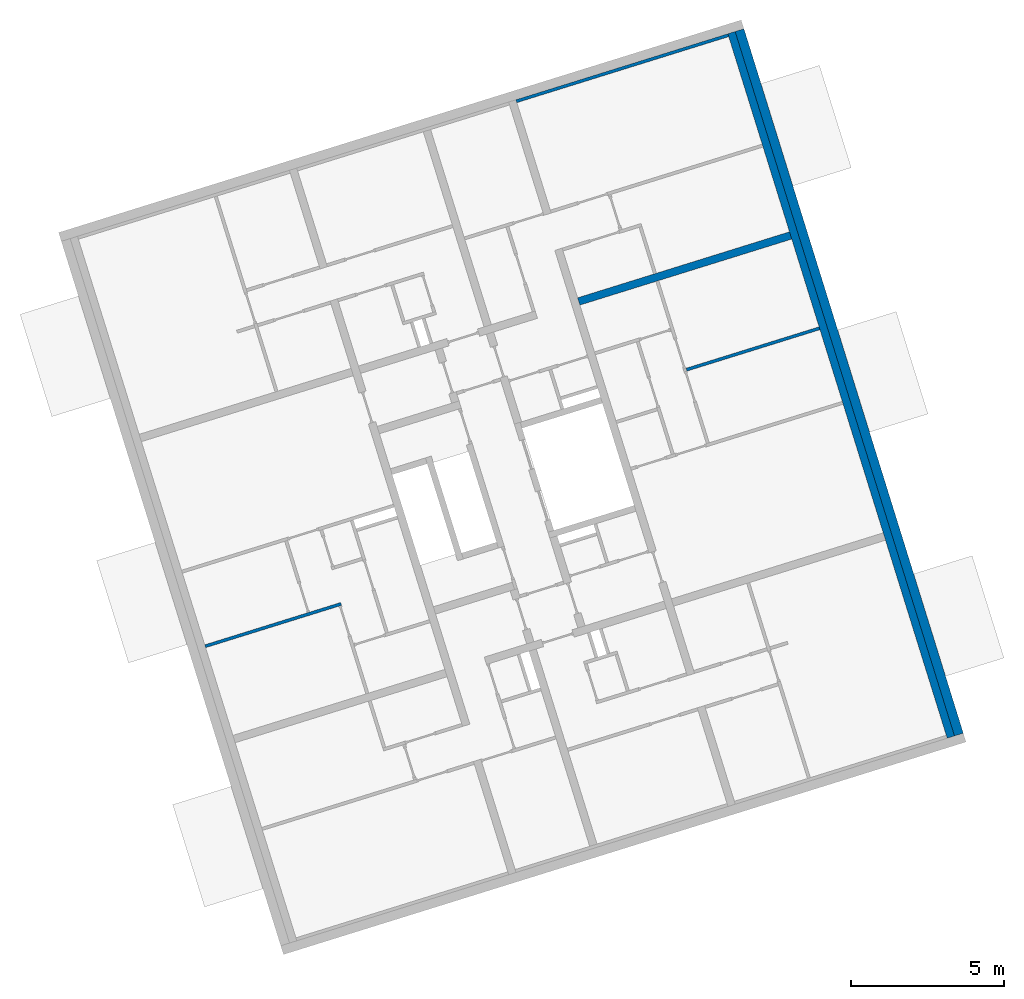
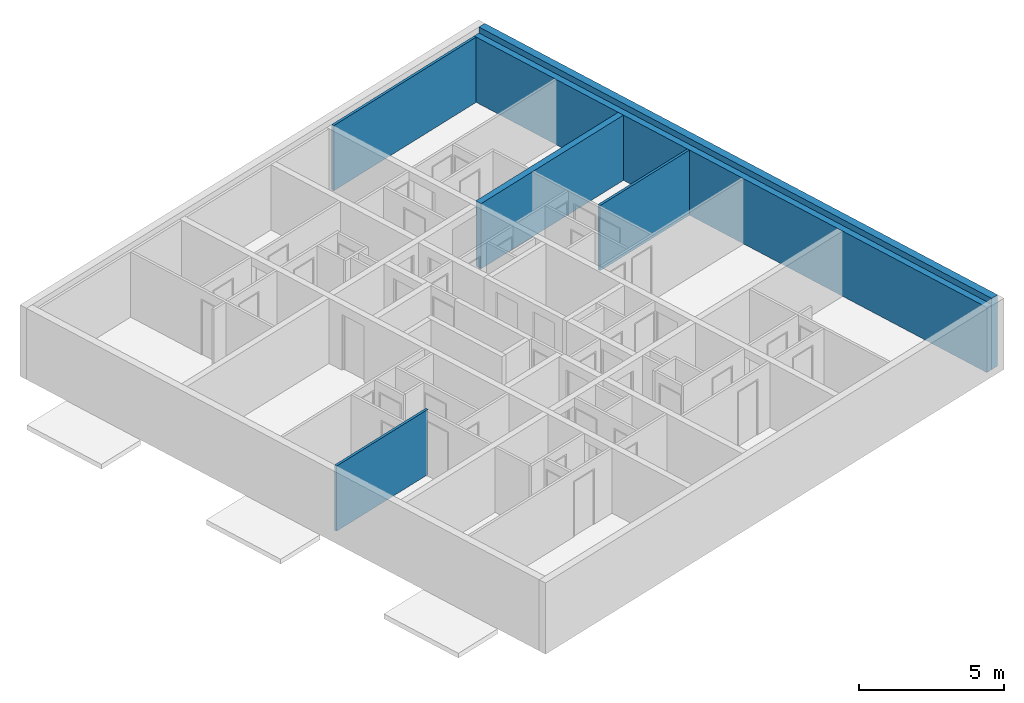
# One storey, part 7 of 9: 6 walls, 3 openings.
"""IFC4 building model written with IfcOpenShell, lengths in metres."""

from ifc_helpers import new_model, entity, si_unit, converted_unit, direction, frame, origin, place, context, subcontext, project, spatial, indexed_curve, outline, extrude, polygons, material, type_object, element, save


model = new_model("IFC4")

# Units and contexts
model_context = context("Model", 3, precision=1e-05, world=origin(), true_north=direction((6.12323399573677e-17, 1.0)))
body_context = subcontext(model_context, "Body", "Model", "MODEL_VIEW")
ifc_project = project(units=[si_unit("LENGTHUNIT", "METRE"), si_unit("AREAUNIT", "SQUARE_METRE"), converted_unit("PLANEANGLEUNIT", "DEGREE", entity("IfcPlaneAngleMeasure", 0.0174532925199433), si_unit("PLANEANGLEUNIT", "RADIAN"), dimensions=[0, 0, 0, 0, 0, 0, 0]), si_unit("VOLUMEUNIT", "CUBIC_METRE")], contexts=[model_context])

# Site, building, storey
site_placement = place(None, frame((13.1347999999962, 11.9886000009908, 0.0), z_axis=(0.0, 0.0, 1.0), x_axis=(0.954770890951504, 0.297342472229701, 0.0)))
site = spatial("IfcSite", under=ifc_project, at=site_placement, Name="Schiehaven", CompositionType="ELEMENT")
building_placement = place(site_placement, origin())
building = spatial("IfcBuilding", under=site, at=building_placement, Name="VORM huis", CompositionType="ELEMENT")
storey_placement = place(building_placement, frame((0.0, 0.0, 24.9)))
storey = spatial("IfcBuildingStorey", under=building, at=storey_placement, Name="08 achtste verdieping", CompositionType="ELEMENT", Elevation=24.9)

# Walls
ifc_material_1 = material(Name="beton_gewapend_ihw", Category="Miscellaneous")
wall_type_1 = type_object("IfcWallType", Name="Basic Wall:28_WA_skelet_wand 250mm_gen", PredefinedType="STANDARD")
wall_1_placement = place(storey_placement, frame((80.0, 5.0, 0.0), z_axis=(0.0, 0.0, 1.0), x_axis=(0.0, 1.0, 0.0)))
element("IfcWall", 1, at=wall_1_placement, inside=storey, type_object=wall_type_1, material=ifc_material_1, Name="Constructieve wand", ObjectType="Wand", PredefinedType="NOTDEFINED", context=body_context, shape_type="SweptSolid", body=[
    extrude(outline(indexed_curve([(24.1, 0.125), (2.12737606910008e-16, 0.125000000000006), (-2.12737606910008e-16, -0.125000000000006), (24.1, -0.125000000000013), (24.1, 0.125)], self_intersect=False)), origin(), (0.0, 0.0, 1.0), 2.75),
])
ifc_material_2 = material(Name="ntb_ntb_ntb", Category="Miscellaneous")
wall_type_2 = type_object("IfcWallType", Name="Basic Wall:21_WA_gevel_binnenspouwwand 100mm_gen", PredefinedType="STANDARD")
wall_2_placement = place(storey_placement, frame((79.8750000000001, 29.0499999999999, 0.0), z_axis=(0.0, 0.0, 1.0), x_axis=(-1.0, 0.0, 0.0)))
element("IfcWall", 2, at=wall_2_placement, inside=storey, type_object=wall_type_2, material=ifc_material_2, Name="Binnenspouwblad", ObjectType="Wand", PredefinedType="NOTDEFINED", context=body_context, shape_type="SweptSolid", body=[
    extrude(outline(indexed_curve([(7.24999999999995, 0.0499999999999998), (-1.70916305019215e-17, 0.0500000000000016), (1.70916305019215e-17, -0.0500000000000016), (7.24999999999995, -0.0500000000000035), (7.24999999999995, 0.0499999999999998)], self_intersect=False)), origin(), (0.0, 0.0, 1.0), 2.75),
])
wall_type_3 = type_object("IfcWallType", Name="Basic Wall: 300mm_gen", PredefinedType="STANDARD")
wall_3_placement = place(storey_placement, frame((80.275, 5.0, 0.0), z_axis=(0.0, 0.0, 1.0), x_axis=(0.0, 1.0, 0.0)))
element("IfcWall", 3, at=wall_3_placement, inside=storey, type_object=wall_type_3, material=ifc_material_2, Name="Gevelwand", ObjectType="Wand", PredefinedType="NOTDEFINED", context=body_context, shape_type="SweptSolid", body=[
    extrude(outline(indexed_curve([(24.1, 0.150000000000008), (-3.80640300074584e-16, 0.150000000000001), (-7.02226829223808e-16, -0.150000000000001), (24.1, -0.149999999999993), (24.1, 0.150000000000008)], self_intersect=False)), origin(), (0.0, 0.0, 1.0), 3.0),
])
wall_type_4 = type_object("IfcWallType", Name="Basic Wall:22_WA_afbouw_binnenwand 250mm_gen", PredefinedType="STANDARD")
wall_4_placement = place(storey_placement, frame((72.6250000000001, 22.1999999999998, 0.0)))
element("IfcWall", 4, at=wall_4_placement, inside=storey, type_object=wall_type_4, material=ifc_material_2, Name="Binnenwand", ObjectType="Wand", PredefinedType="NOTDEFINED", context=body_context, shape_type="SweptSolid", body=[
    extrude(outline(indexed_curve([(7.24999999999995, 0.125000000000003), (4.81048401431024e-17, 0.125000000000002), (-4.81048401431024e-17, -0.125000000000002), (7.24999999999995, -0.125), (7.24999999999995, 0.125000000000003)], self_intersect=False)), origin(), (0.0, 0.0, 1.0), 2.75),
])

# Wall, openings
wall_type_5 = type_object("IfcWallType", Name="Basic Wall:22_WA_afbouw_binnenwand 100mm_gen", PredefinedType="STANDARD")
wall_5_placement = place(storey_placement, frame((62.275, 15.0749999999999, 0.0), z_axis=(0.0, 0.0, 1.0), x_axis=(-1.0, 0.0, 0.0)))
wall_5 = element("IfcWall", 5, at=wall_5_placement, inside=storey, type_object=wall_type_5, material=ifc_material_2, Name="Binnenwand", ObjectType="Wand", PredefinedType="NOTDEFINED", context=body_context, shape_type="Tessellation", body=[
    polygons([(-2.2517677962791e-15, -0.0499999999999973, 0.0), (4.65000000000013, -0.0500000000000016, 0.0), (4.65000000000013, -0.0500000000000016, 2.75), (1.15, -0.0500000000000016, 2.75), (1.04999999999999, -0.0500000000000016, 2.75), (-2.2517677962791e-15, -0.0499999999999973, 2.75), (-2.17960445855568e-15, 0.0499999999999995, 0.0), (-2.17960445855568e-15, 0.0499999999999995, 2.34999999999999), (-2.17960445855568e-15, 0.0499999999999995, 2.75), (0.100000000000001, 0.0499999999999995, 2.75), (4.65000000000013, 0.0499999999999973, 2.75), (4.65000000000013, 0.0499999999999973, 0.0)], [[[1, 2, 3, 4, 5, 6]], [[7, 8, 9, 10, 11, 12]], [[2, 1, 7, 12]], [[3, 2, 12, 11]], [[6, 5, 4, 3, 11, 10, 9]], [[1, 6, 9, 8, 7]]], closed=True),
])
opening_1_placement = place(wall_5_placement, origin())
element("IfcOpeningElement", 6, at=opening_1_placement, cuts=wall_5, Name="Binnendeur", PredefinedType="OPENING", context=body_context, shape_type="SweptSolid", body=[
    extrude(outline(indexed_curve([(-0.0499999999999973, -1.17499999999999), (0.050000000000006, -1.17499999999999), (0.050000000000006, 1.17499999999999), (-0.0499999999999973, 1.17499999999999), (-0.0499999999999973, -1.17499999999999)], self_intersect=False)), frame((0.0500000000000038, 0.0500000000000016, 1.17499999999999), z_axis=(0.0, 1.0, 0.0), x_axis=(-1.0, 0.0, 0.0)), (0.0, 0.0, 1.0), 1.05),
])
opening_2_placement = place(wall_5_placement, origin())
element("IfcOpeningElement", 7, at=opening_2_placement, cuts=wall_5, Name="Binnendeur", PredefinedType="OPENING", context=body_context, shape_type="SweptSolid", body=[
    extrude(outline(indexed_curve([(-0.050000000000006, -1.17499999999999), (0.0499999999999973, -1.17499999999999), (0.0499999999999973, 1.17499999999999), (-0.050000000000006, 1.17499999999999), (-0.050000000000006, -1.17499999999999)], self_intersect=False)), frame((1.09999999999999, -1.1, 1.17499999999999), z_axis=(0.0, 1.0, 0.0), x_axis=(-1.0, 0.0, 0.0)), (0.0, 0.0, 1.0), 1.05),
])

# Wall, opening
wall_6_placement = place(storey_placement, frame((75.3249999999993, 19.0249999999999, 0.0)))
wall_6 = element("IfcWall", 8, at=wall_6_placement, inside=storey, type_object=wall_type_5, material=ifc_material_2, Name="Binnenwand", ObjectType="Wand", PredefinedType="NOTDEFINED", context=body_context, shape_type="Tessellation", body=[
    polygons([(6.24269688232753e-15, -0.0500000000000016, 0.0), (4.55000000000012, -0.0500000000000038, 0.0), (4.55000000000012, -0.0500000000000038, 2.75), (6.24269688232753e-15, -0.0500000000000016, 2.75), (-2.42024015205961e-15, -0.0500000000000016, 2.34999999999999), (6.59517781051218e-15, 0.0499999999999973, 0.0), (-2.06775922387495e-15, 0.0499999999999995, 2.34999999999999), (6.59517781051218e-15, 0.0499999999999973, 2.75), (4.55000000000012, 0.0499999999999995, 2.75), (4.55000000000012, 0.0499999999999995, 0.0)], [[[1, 2, 3, 4, 5]], [[6, 7, 8, 9, 10]], [[2, 1, 6, 10]], [[3, 2, 10, 9]], [[4, 3, 9, 8]], [[1, 5, 4, 8, 7, 6]]], closed=True),
])
opening_3_placement = place(wall_6_placement, origin())
element("IfcOpeningElement", 9, at=opening_3_placement, cuts=wall_6, Name="Binnendeur", PredefinedType="OPENING", context=body_context, shape_type="SweptSolid", body=[
    extrude(outline(indexed_curve([(-0.050000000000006, -1.17499999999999), (0.0499999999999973, -1.17499999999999), (0.0499999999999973, 1.17499999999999), (-0.050000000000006, 1.17499999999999), (-0.050000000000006, -1.17499999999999)], self_intersect=False)), frame((-0.050000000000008, 0.0500000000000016, 1.17499999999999), z_axis=(0.0, 1.0, 0.0), x_axis=(-1.0, 0.0, 0.0)), (0.0, 0.0, 1.0), 1.05),
])

save(model, "model.ifc")
